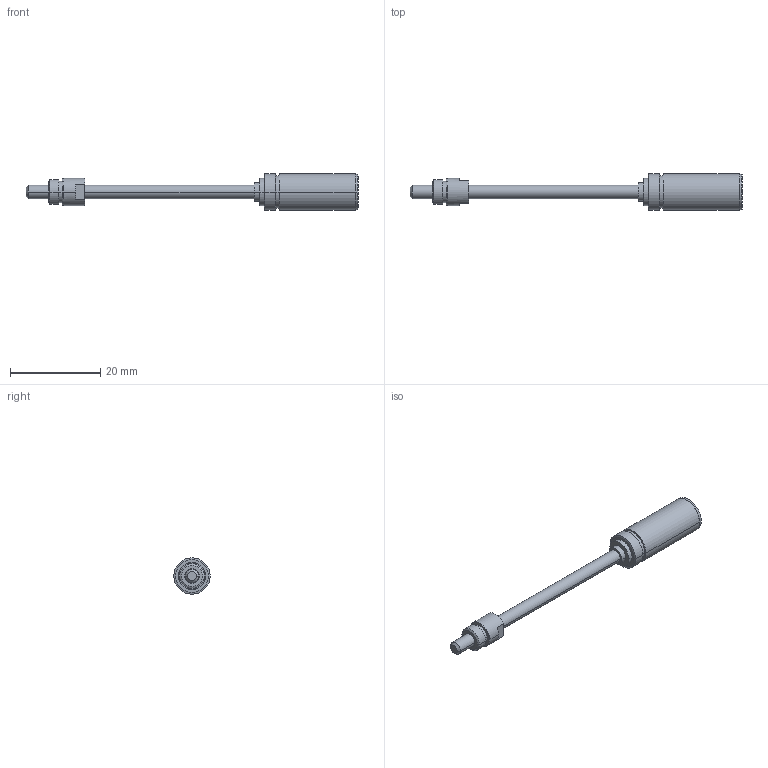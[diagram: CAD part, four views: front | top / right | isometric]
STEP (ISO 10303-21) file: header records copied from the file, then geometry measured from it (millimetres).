
FILE_DESCRIPTION((''),'2;1');
FILE_NAME('473647_GP8S-5ST','2016-10-05T',('mmagpetk'),(''),'CREO PARAMETRIC BY PTC INC, 2016050','CREO PARAMETRIC BY PTC INC, 2016050','');
FILE_SCHEMA(('CONFIG_CONTROL_DESIGN'));
Length unit declared in the file: millimetre
Products named in the file (1): 473647_GP8S-5ST
Bounding box: 73.4 x 8 x 8 mm (x, y, z)
Volume: 1354.7 mm3; surface area: 1395.9 mm2
Topology: 1 solids, 1 shells, 61 faces, 124 edges, 76 vertices
Faces by surface type: cylinder 26, plane 17, cone 16, torus 2
Entity records: 2725 total; most frequent: DIRECTION 320, CARTESIAN_POINT 261, ORIENTED_EDGE 248, PRESENTATION_STYLE_ASSIGNMENT 177, AXIS2_PLACEMENT_3D 135, STYLED_ITEM 125, CURVE_STYLE 124, EDGE_CURVE 124
